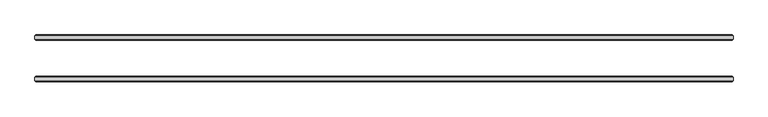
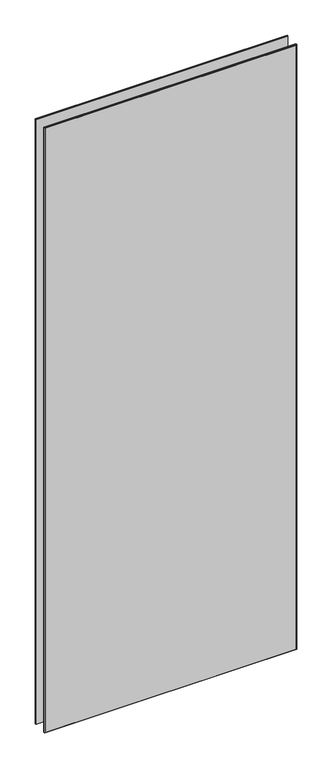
"""IFC4 building model written with IfcOpenShell, lengths in millimetres: plate geometry, 3-AMG-2-Панель двойной витраж 8, 10 : Смещение 32 Толщина 8mm."""

import ifcopenshell
import ifcopenshell.guid

model = None  # the IFC model being written
_history = None  # IfcOwnerHistory: only IFC2X3 demands one
_inside = {}  # id of a spatial element -> (the spatial element, [elements in it])
_under = {}  # id of a project, library or spatial element -> (it, [spatial elements below it])
_declared = {}  # id of a project -> (the project, [libraries it declares])
_typed = {}  # id of a type object -> (the type object, [elements of that type])
_made_of = {}  # id of a material, layer set ... -> (it, [elements and type objects made of it])


def new_model(schema):
    """Start an empty IFC model of exactly this schema.

    Asked for "IFC4X3", IfcOpenShell would pick the latest addendum, in which some entities
    have other attributes; the version numbers below select the first issue.
    IFC2X3 requires an IfcOwnerHistory on every rooted entity: one is made here for all.
    """
    global model, _history
    if schema == "IFC4X3":
        model = ifcopenshell.file(schema_version=(4, 3, 0, 0))
    else:
        model = ifcopenshell.file(schema=schema)
    _inside.clear()
    _under.clear()
    _declared.clear()
    _typed.clear()
    _made_of.clear()
    _history = None
    if model.schema == "IFC2X3":
        org = make("IfcOrganization", Name="unknown")
        user = make(
            "IfcPersonAndOrganization",
            ThePerson=make("IfcPerson", FamilyName="unknown"),
            TheOrganization=org,
        )
        app = make(
            "IfcApplication",
            ApplicationDeveloper=org,
            Version="unknown",
            ApplicationFullName="unknown",
            ApplicationIdentifier="unknown",
        )
        _history = make(
            "IfcOwnerHistory",
            OwningUser=user,
            OwningApplication=app,
            ChangeAction="ADDED",
            CreationDate=0,
        )
    return model


def make(cls, **values):
    """One entity of the class cls with the attributes given. An attribute that is None is left unset."""
    return model.create_entity(
        cls, **{name: value for name, value in values.items() if value is not None}
    )


def rooted(cls, **values):
    """An entity with a GlobalId (a new one), such as an element, a storey or a relation."""
    return make(cls, GlobalId=ifcopenshell.guid.new(), OwnerHistory=_history, **values)


def si_unit(unit_type, name, prefix=None):
    """IfcSIUnit, for example si_unit("LENGTHUNIT", "METRE", prefix="MILLI")."""
    return make("IfcSIUnit", UnitType=unit_type, Prefix=prefix, Name=name)


def assignment(units):
    """IfcUnitAssignment: the units of a project."""
    return None if units is None else make("IfcUnitAssignment", Units=units)


def point(xyz):
    """IfcCartesianPoint."""
    return None if xyz is None else make("IfcCartesianPoint", Coordinates=xyz)


def direction(xyz):
    """IfcDirection."""
    return None if xyz is None else make("IfcDirection", DirectionRatios=xyz)


def frame(location, z_axis=None, x_axis=None):
    """IfcAxis2Placement3D, a coordinate frame: its origin and axes. An axis left out is left unset."""
    return make(
        "IfcAxis2Placement3D",
        Location=point(location),
        Axis=direction(z_axis),
        RefDirection=direction(x_axis),
    )


def origin():
    """The frame at (0, 0, 0) with its axes left unset."""
    return frame((0.0, 0.0, 0.0))


def place(relative_to, where):
    """IfcLocalPlacement: puts the frame where relative to a parent placement (None: the world)."""
    return make(
        "IfcLocalPlacement", PlacementRelTo=relative_to, RelativePlacement=where
    )


def context(
    kind, dimensions, precision=None, world=None, true_north=None, identifier=None
):
    """IfcGeometricRepresentationContext, for example the 3D "Model" context."""
    return make(
        "IfcGeometricRepresentationContext",
        ContextIdentifier=identifier,
        ContextType=kind,
        CoordinateSpaceDimension=dimensions,
        Precision=precision,
        WorldCoordinateSystem=world,
        TrueNorth=true_north,
    )


def project(units=None, contexts=None):
    """IfcProject with its units and contexts."""
    return rooted(
        "IfcProject",
        Name="project",
        RepresentationContexts=contexts,
        UnitsInContext=assignment(units),
    )


def spatial(cls, under=None, at=None, **own):
    """A site, building, storey or space (cls), placed at a placement, below another one or the project."""
    s = rooted(cls, ObjectPlacement=at, **own)
    if under is not None:
        _under.setdefault(under.id(), (under, []))[1].append(s)
    return s


def faces_of(points, faces, orient=None, outer=None):
    """IfcFace entities. A face is a list of loops; a loop is a list of indices into points, from 0.

    orient and outer hold one flag for each loop. By default every Orientation is true, the
    first loop of a face is its IfcFaceOuterBound and the others are IfcFaceBound.
    """
    made = []
    for i, loops in enumerate(faces):
        bounds = []
        for j, loop in enumerate(loops):
            is_outer = j == 0 if outer is None else outer[i][j]
            bounds.append(
                make(
                    "IfcFaceOuterBound" if is_outer else "IfcFaceBound",
                    Bound=make("IfcPolyLoop", Polygon=[points[k] for k in loop]),
                    Orientation=True if orient is None else orient[i][j],
                )
            )
        made.append(make("IfcFace", Bounds=bounds))
    return made


def faceted_brep(points, faces, orient=None, outer=None, voids=None):
    """IfcFacetedBrep: a solid bounded by flat faces; with voids (closed shells), ...WithVoids."""
    shared = [point(p) for p in points]
    hull = make("IfcClosedShell", CfsFaces=faces_of(shared, faces, orient, outer))
    if voids is None:
        return make("IfcFacetedBrep", Outer=hull)
    return make(
        "IfcFacetedBrepWithVoids",
        Outer=hull,
        Voids=[
            make(cls, CfsFaces=faces_of(shared, fs, o, b)) for cls, fs, o, b in voids
        ],
    )


def shape(context_of_items, identifier, shape_type, items):
    """IfcShapeRepresentation: the items that make up one representation, for example the "Body"."""
    return make(
        "IfcShapeRepresentation",
        ContextOfItems=context_of_items,
        RepresentationIdentifier=identifier,
        RepresentationType=shape_type,
        Items=items,
    )


def source(mapping_origin, context_of_items, identifier, shape_type, items):
    """IfcRepresentationMap: a shape defined once, which mapped items show again and again."""
    return make(
        "IfcRepresentationMap",
        MappingOrigin=mapping_origin,
        MappedRepresentation=shape(context_of_items, identifier, shape_type, items),
    )


def transform(
    local_origin,
    x_axis=None,
    y_axis=None,
    z_axis=None,
    scale=None,
    scale2=None,
    scale3=None,
    uniform=True,
):
    """IfcCartesianTransformationOperator3D, or its non-uniform kind. x_axis, y_axis, z_axis: its Axis1, 2, 3."""
    if uniform:
        return make(
            "IfcCartesianTransformationOperator3D",
            Axis1=direction(x_axis),
            Axis2=direction(y_axis),
            LocalOrigin=point(local_origin),
            Scale=scale,
            Axis3=direction(z_axis),
        )
    return make(
        "IfcCartesianTransformationOperator3DnonUniform",
        Axis1=direction(x_axis),
        Axis2=direction(y_axis),
        LocalOrigin=point(local_origin),
        Scale=scale,
        Axis3=direction(z_axis),
        Scale2=scale2,
        Scale3=scale3,
    )


def mapped(mapping_source, mapping_target):
    """IfcMappedItem: shows the shape of a source again, moved by a transform."""
    return make(
        "IfcMappedItem", MappingSource=mapping_source, MappingTarget=mapping_target
    )


def made_of(thing, what):
    """Note that an element or type object is made of a material, layer set ...; save() writes the relation."""
    if what is not None:
        _made_of.setdefault(what.id(), (what, []))[1].append(thing)
    return thing


def element(
    cls,
    number,
    at=None,
    inside=None,
    cuts=None,
    type_object=None,
    material=None,
    context=None,
    identifier="Body",
    shape_type=None,
    held_by="IfcProductDefinitionShape",
    body=None,
    shapes=None,
    **own,
):
    """One element of the class cls, such as IfcWall. Its Tag is "e" and its number.

    at: its placement. inside: the storey or other place that contains it. cuts: it is an
    opening in that element (IfcRelVoidsElement). A single representation is given by context,
    identifier, shape_type and body (its items); several are given by shapes. held_by: the class
    of the entity that holds the representations. save() writes the other relations.
    """
    e = rooted(cls, Tag="e%d" % number, ObjectPlacement=at, **own)
    if body is not None:
        shapes = [shape(context, identifier, shape_type, body)]
    if shapes is not None:
        e.Representation = make(held_by, Representations=shapes)
    if inside is not None:
        _inside.setdefault(inside.id(), (inside, []))[1].append(e)
    if cuts is not None:
        rooted(
            "IfcRelVoidsElement", RelatingBuildingElement=cuts, RelatedOpeningElement=e
        )
    if type_object is not None:
        _typed.setdefault(type_object.id(), (type_object, []))[1].append(e)
    return made_of(e, material)


def aggregate(whole, parts):
    """IfcRelAggregates: a whole, such as a stair, and the parts it consists of."""
    return rooted("IfcRelAggregates", RelatingObject=whole, RelatedObjects=parts)


def save(model, path):
    """Write the relations noted so far, then the file.

    IfcRelAggregates (storeys below a building ...), IfcRelContainedInSpatialStructure (elements
    in a storey), IfcRelDefinesByType, IfcRelAssociatesMaterial and IfcRelDeclares: one each for
    every whole, place, type object, material and project.
    """
    for whole, parts in _under.values():
        aggregate(whole, parts)
    for where, things in _inside.values():
        rooted(
            "IfcRelContainedInSpatialStructure",
            RelatedElements=things,
            RelatingStructure=where,
        )
    for kind, things in _typed.values():
        rooted("IfcRelDefinesByType", RelatedObjects=things, RelatingType=kind)
    for what, things in _made_of.values():
        rooted("IfcRelAssociatesMaterial", RelatedObjects=things, RelatingMaterial=what)
    for by, libraries in _declared.values():
        rooted("IfcRelDeclares", RelatingContext=by, RelatedDefinitions=libraries)
    model.write(path)


def plate_1d4f74eb(model_context):
    return source(origin(), model_context, "Body", "Brep", [
        faceted_brep([(537.8511719, -34.4961653, 2722.8), (537.8511719, -29.5038347, 2722.8), (-537.8511719, -29.5038347, 2722.8), (-537.8511719, -34.4961653, 2722.8), (537.8511719, -29.5038347, -7.0), (537.8511719, -34.4961653, -7.0), (-537.8511719, -34.4961653, -7.0), (-537.8511719, -29.5038347, -7.0), (-536.3473372, -28.0, 2721.2961653), (536.3473372, -28.0, 2721.2961653), (536.3473372, -28.0, -5.5039422), (-536.3473372, -28.0, -5.5039422), (536.3473372, -36.0, 2721.2961653), (-536.3473372, -36.0, 2721.2961653), (-536.3473372, -36.0, -5.4961653), (536.3473372, -36.0, -5.4961653)], [[[0, 1, 2, 3]], [[4, 5, 6, 7]], [[8, 9, 10, 11]], [[3, 2, 7, 6]], [[12, 13, 14, 15]], [[1, 0, 5, 4]], [[1, 4, 10, 9]], [[5, 0, 12, 15]], [[0, 3, 13, 12]], [[2, 1, 9, 8]], [[7, 2, 8, 11]], [[3, 6, 14, 13]], [[6, 5, 15, 14]], [[4, 7, 11, 10]]]),
        faceted_brep([(537.8511719, 29.5038347, 2722.8), (537.8511719, 34.4961653, 2722.8), (-537.8511719, 34.4961653, 2722.8), (-537.8511719, 29.5038347, 2722.8), (537.8511719, 34.4961653, -7.0), (537.8511719, 29.5038347, -7.0), (-537.8511719, 29.5038347, -7.0), (-537.8511719, 34.4961653, -7.0), (-536.3473372, 36.0, 2721.2961653), (536.3473372, 36.0, 2721.2961653), (536.3473372, 36.0, -5.5039422), (-536.3473372, 36.0, -5.5039422), (536.3473372, 28.0, 2721.2961653), (-536.3473372, 28.0, 2721.2961653), (-536.3473372, 28.0, -5.4961653), (536.3473372, 28.0, -5.4961653)], [[[0, 1, 2, 3]], [[4, 5, 6, 7]], [[8, 9, 10, 11]], [[3, 2, 7, 6]], [[12, 13, 14, 15]], [[1, 0, 5, 4]], [[1, 4, 10, 9]], [[5, 0, 12, 15]], [[7, 2, 8, 11]], [[3, 6, 14, 13]], [[0, 3, 13, 12]], [[2, 1, 9, 8]], [[6, 5, 15, 14]], [[4, 7, 11, 10]]]),
    ])


if __name__ == "__main__":
    model = new_model("IFC4")
    model_context = context("Model", 3, world=origin())
    ifc_project = project(units=[si_unit("LENGTHUNIT", "METRE", prefix="MILLI")], contexts=[model_context])
    site = spatial("IfcSite", under=ifc_project)
    building = spatial("IfcBuilding", under=site)
    placement = place(None, origin())
    plate_shape = plate_1d4f74eb(model_context)
    element("IfcPlate", 1, ObjectType="3-AMG-2-Панель двойной витраж 8, 10 : Смещение 32 Толщина 8mm", at=placement, inside=building, context=model_context, shape_type="MappedRepresentation", body=[
        mapped(plate_shape, transform((0.0, 0.0, 0.0), x_axis=(1.0, 0.0, 0.0), y_axis=(0.0, 1.0, 0.0), z_axis=(0.0, 0.0, 1.0))),
    ])
    save(model, "model.ifc")
